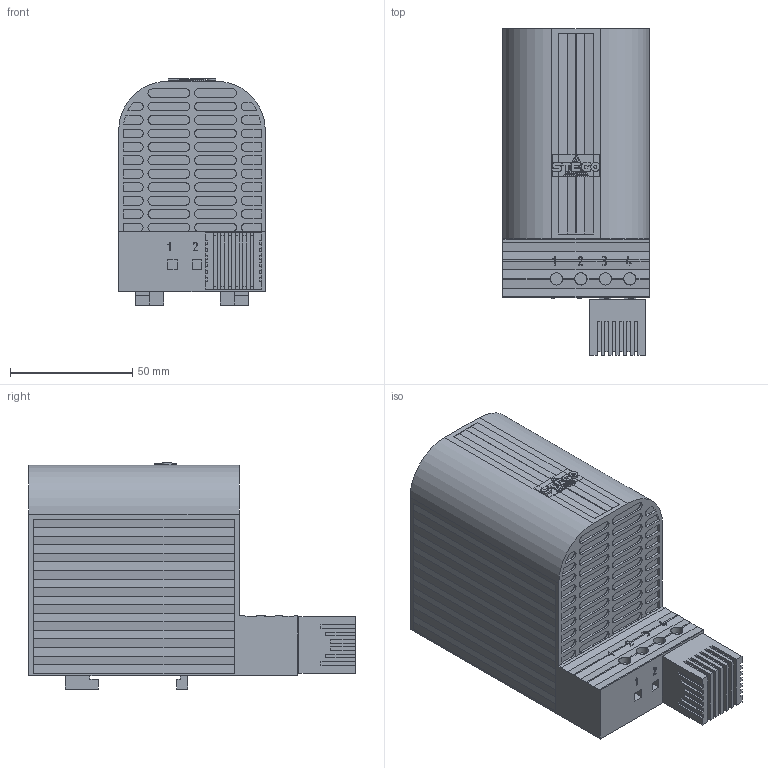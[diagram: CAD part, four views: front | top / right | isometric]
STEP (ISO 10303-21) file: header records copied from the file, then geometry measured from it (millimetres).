
FILE_DESCRIPTION (( 'STEP AP214' ), '1' );
FILE_NAME ('CSF_060_110mm_EPLAN_07_2013.STEP', '2013-07-23T09:46:48', ( '' ), ( '' ), 'SwSTEP 2.0', 'SolidWorks 2013', '' );
FILE_SCHEMA (( 'AUTOMOTIVE_DESIGN' ));
Length unit declared in the file: millimetre
Products named in the file (1): CSF_060_110mm_EPLAN_07_2013
Bounding box: 60 x 133.5 x 92.5 mm (x, y, z)
Volume: 470177.5 mm3; surface area: 46847.5 mm2
Topology: 2 solids, 4 shells, 1193 faces, 3136 edges, 2064 vertices
Faces by surface type: plane 845, cylinder 184, bspline 164
Entity records: 40150 total; most frequent: CARTESIAN_POINT 10342, ORIENTED_EDGE 6272, DIRECTION 5223, EDGE_CURVE 3136, LINE 2405, VECTOR 2405, VERTEX_POINT 2064, AXIS2_PLACEMENT_3D 1409
